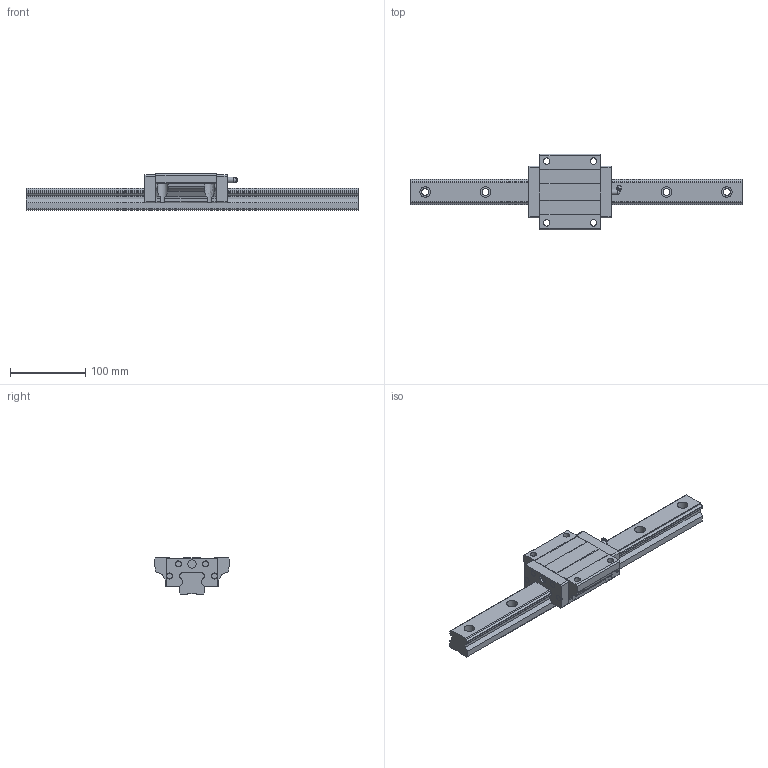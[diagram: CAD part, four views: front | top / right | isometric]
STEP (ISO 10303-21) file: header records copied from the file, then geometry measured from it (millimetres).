
FILE_DESCRIPTION((''),'2;1');
FILE_NAME('D:\製品 (図面)\カタログ用3D\リニアガイド関連\STEP形式\LGH-F\LGH35F.stp','2010-06-02T15:51:12',('Tsuchiya'),(''),'Autodesk Inventor 10','Autodesk Inventor 10','');
FILE_SCHEMA(('AUTOMOTIVE_DESIGN { 1 0 10303 214 1 1 1 1 }'));
Length unit declared in the file: millimetre
Products named in the file (3): LGH35F; LGH35F1; LGH35F2
Assembly tree (2 placements, depth 2):
  LGH35F
    LGH35F1
    LGH35F2
Bounding box: 440 x 100 x 48 mm (x, y, z)
Volume: 638948.9 mm3; surface area: 104375 mm2
Topology: 2 solids, 2 shells, 225 faces, 582 edges, 383 vertices
Faces by surface type: plane 117, cylinder 59, bspline 44, sphere 3, cone 2
Full cylindrical faces by diameter (mm): 7 x1, 7.6 x4, 7.7 x1, 8 x4, 8.376 x2, 11 x1
Entity records: 7476 total; most frequent: CARTESIAN_POINT 2109, ORIENTED_EDGE 1064, DIRECTION 1052, EDGE_CURVE 532, VERTEX_POINT 378, AXIS2_PLACEMENT_3D 358, VECTOR 336, LINE 336
